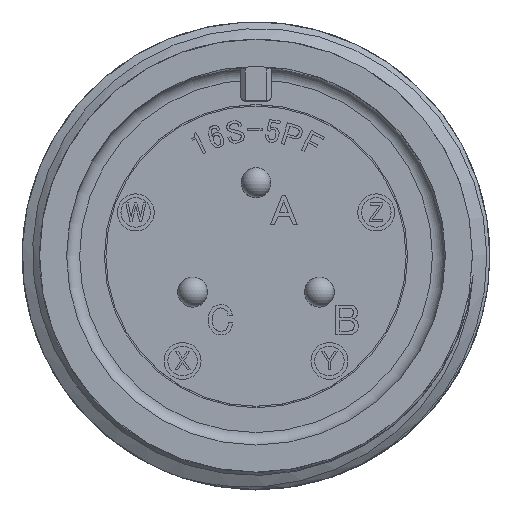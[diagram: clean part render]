
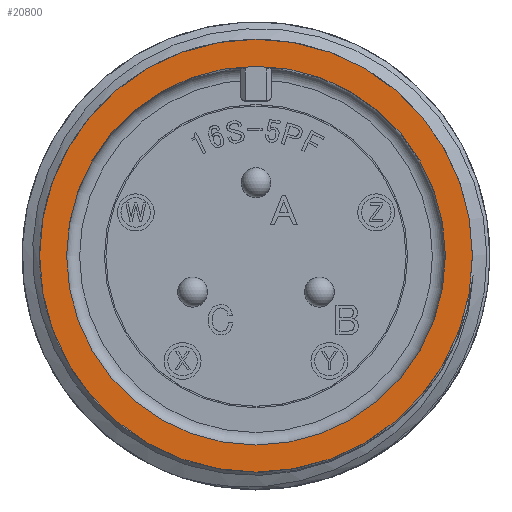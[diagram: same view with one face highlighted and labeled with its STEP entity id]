
A CAD part, top view. The second image highlights one B-rep face of the part: STEP entity #20800.
In plain terms, the highlighted planar face has unit normal (0, 0, 1).
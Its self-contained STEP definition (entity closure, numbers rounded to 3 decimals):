
#935 = DIRECTION ( 'NONE',  ( 0., 0., 1. ) ) ;
#1141 = FACE_BOUND ( 'NONE', #22155, .T. ) ;
#1621 = ORIENTED_EDGE ( 'NONE', *, *, #24322, .T. ) ;
#3755 = VERTEX_POINT ( 'NONE', #22428 ) ;
#4965 = AXIS2_PLACEMENT_3D ( 'NONE', #22933, #935, #14871 ) ;
#5415 = EDGE_LOOP ( 'NONE', ( #1621 ) ) ;
#5992 = EDGE_CURVE ( 'NONE', #3755, #3755, #6340, .T. ) ;
#6340 = CIRCLE ( 'NONE', #23092, 10.25 ) ;
#7466 = DIRECTION ( 'NONE',  ( 0., 0., -1. ) ) ;
#8599 = ORIENTED_EDGE ( 'NONE', *, *, #5992, .F. ) ;
#12608 = FACE_OUTER_BOUND ( 'NONE', #5415, .T. ) ;
#13310 = DIRECTION ( 'NONE',  ( -1., 0., 0. ) ) ;
#14871 = DIRECTION ( 'NONE',  ( 1., 0., 0. ) ) ;
#17361 = VERTEX_POINT ( 'NONE', #20502 ) ;
#19435 = PLANE ( 'NONE',  #22598 ) ;
#19702 = DIRECTION ( 'NONE',  ( 1., 0., 0. ) ) ;
#20502 = CARTESIAN_POINT ( 'NONE',  ( 11.715, 0., 0. ) ) ;
#20800 = ADVANCED_FACE ( 'NONE', ( #1141, #12608 ), #19435, .F. ) ;
#21484 = CIRCLE ( 'NONE', #4965, 11.715 ) ;
#21634 = DIRECTION ( 'NONE',  ( 0., 0., 1. ) ) ;
#22155 = EDGE_LOOP ( 'NONE', ( #8599 ) ) ;
#22428 = CARTESIAN_POINT ( 'NONE',  ( 10.25, 0., 0. ) ) ;
#22598 = AXIS2_PLACEMENT_3D ( 'NONE', #25195, #7466, #13310 ) ;
#22933 = CARTESIAN_POINT ( 'NONE',  ( 0., 0., 0. ) ) ;
#23092 = AXIS2_PLACEMENT_3D ( 'NONE', #23556, #21634, #19702 ) ;
#23556 = CARTESIAN_POINT ( 'NONE',  ( 0., 0., 0. ) ) ;
#24322 = EDGE_CURVE ( 'NONE', #17361, #17361, #21484, .T. ) ;
#25195 = CARTESIAN_POINT ( 'NONE',  ( 0., 10.25, 0. ) ) ;
